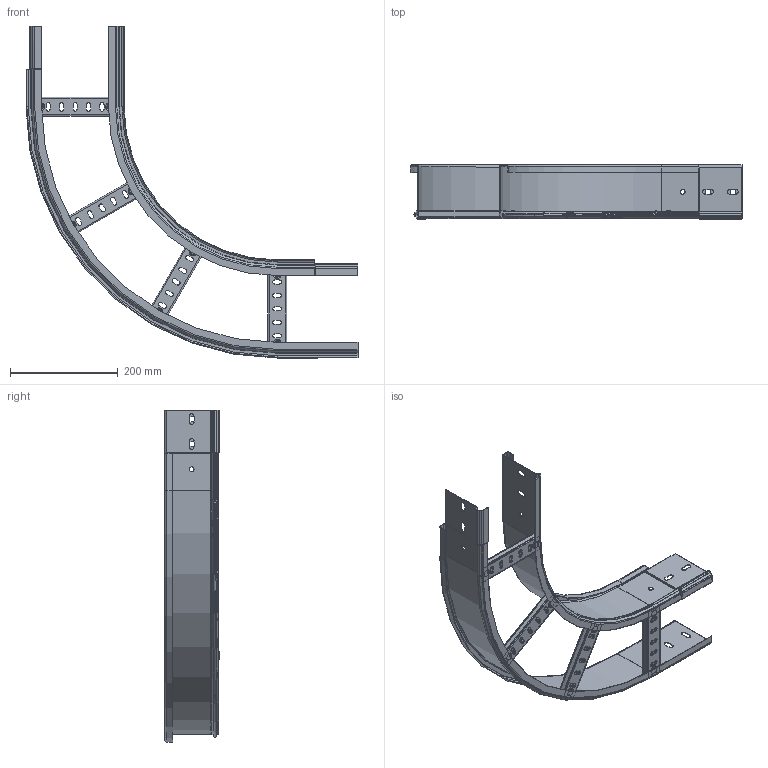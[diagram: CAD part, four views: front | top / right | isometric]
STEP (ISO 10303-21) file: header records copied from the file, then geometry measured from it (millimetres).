
FILE_DESCRIPTION (( 'STEP AP203' ), '1' );
FILE_NAME ('150x100.step', '2023-08-01T07:33:39', ( '' ), ( '' ), 'SwSTEP 2.0', 'SolidWorks 2022', '' );
FILE_SCHEMA (( 'CONFIG_CONTROL_DESIGN' ));
Length unit declared in the file: millimetre
Products named in the file (4): 150x100; FER_INTERIOR CP_Circular_Enchufable_100; FER_EXTERIOR CP_Circular_Enchufable_150x100; Travesaño RAT35 FER GS_150
Assembly tree (6 placements, depth 2):
  150x100
    FER_INTERIOR CP_Circular_Enchufable_100
    Travesaño RAT35 FER GS_150  x4
    FER_EXTERIOR CP_Circular_Enchufable_150x100
Bounding box: 616 x 101.5 x 616 mm (x, y, z)
Volume: 59947.7 mm3; surface area: 588428.1 mm2
Topology: 4 solids, 10 shells, 620 faces, 1494 edges, 906 vertices
Faces by surface type: plane 328, cylinder 186, torus 86, cone 20
Entity records: 11178 total; most frequent: CARTESIAN_POINT 1936, DIRECTION 1930, ORIENTED_EDGE 1724, EDGE_CURVE 894, AXIS2_PLACEMENT_3D 694, VERTEX_POINT 546, LINE 542, VECTOR 542
